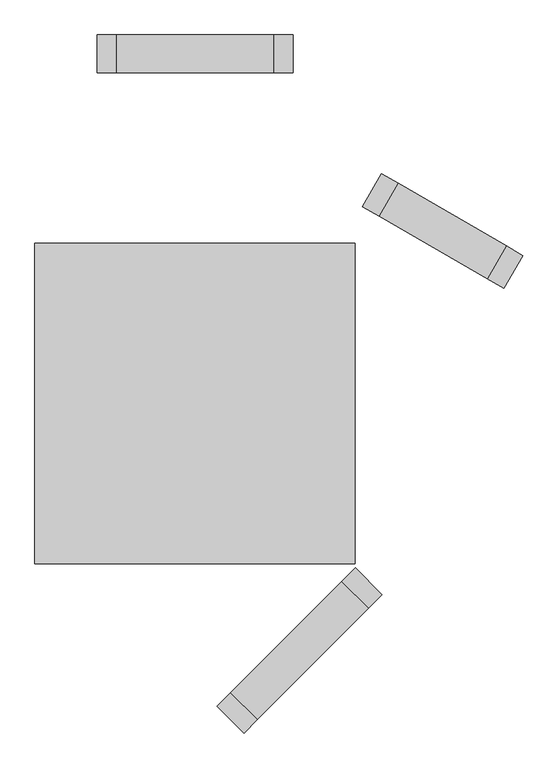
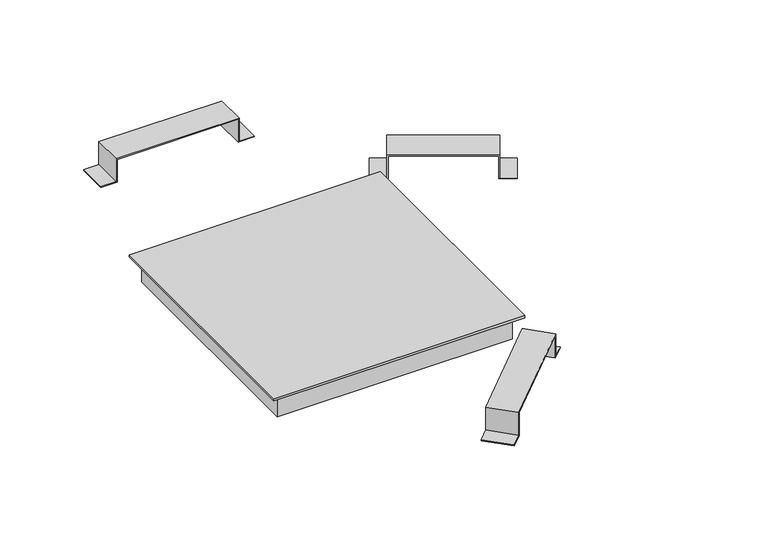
"""IFC4 building model written with IfcOpenShell, lengths in millimetres: cable carrier fitting geometry, Electrical-Installations_Hager_Universal-Junction-Box-With-Retaining-Tabs-Size-3-Angled : Universal junction box with retaining tabs size 3."""

import ifcopenshell
import ifcopenshell.guid

model = None  # the IFC model being written
_history = None  # IfcOwnerHistory: only IFC2X3 demands one
_inside = {}  # id of a spatial element -> (the spatial element, [elements in it])
_under = {}  # id of a project, library or spatial element -> (it, [spatial elements below it])
_declared = {}  # id of a project -> (the project, [libraries it declares])
_typed = {}  # id of a type object -> (the type object, [elements of that type])
_made_of = {}  # id of a material, layer set ... -> (it, [elements and type objects made of it])


def new_model(schema):
    """Start an empty IFC model of exactly this schema.

    Asked for "IFC4X3", IfcOpenShell would pick the latest addendum, in which some entities
    have other attributes; the version numbers below select the first issue.
    IFC2X3 requires an IfcOwnerHistory on every rooted entity: one is made here for all.
    """
    global model, _history
    if schema == "IFC4X3":
        model = ifcopenshell.file(schema_version=(4, 3, 0, 0))
    else:
        model = ifcopenshell.file(schema=schema)
    _inside.clear()
    _under.clear()
    _declared.clear()
    _typed.clear()
    _made_of.clear()
    _history = None
    if model.schema == "IFC2X3":
        org = make("IfcOrganization", Name="unknown")
        user = make(
            "IfcPersonAndOrganization",
            ThePerson=make("IfcPerson", FamilyName="unknown"),
            TheOrganization=org,
        )
        app = make(
            "IfcApplication",
            ApplicationDeveloper=org,
            Version="unknown",
            ApplicationFullName="unknown",
            ApplicationIdentifier="unknown",
        )
        _history = make(
            "IfcOwnerHistory",
            OwningUser=user,
            OwningApplication=app,
            ChangeAction="ADDED",
            CreationDate=0,
        )
    return model


def make(cls, **values):
    """One entity of the class cls with the attributes given. An attribute that is None is left unset."""
    return model.create_entity(
        cls, **{name: value for name, value in values.items() if value is not None}
    )


def rooted(cls, **values):
    """An entity with a GlobalId (a new one), such as an element, a storey or a relation."""
    return make(cls, GlobalId=ifcopenshell.guid.new(), OwnerHistory=_history, **values)


def si_unit(unit_type, name, prefix=None):
    """IfcSIUnit, for example si_unit("LENGTHUNIT", "METRE", prefix="MILLI")."""
    return make("IfcSIUnit", UnitType=unit_type, Prefix=prefix, Name=name)


def assignment(units):
    """IfcUnitAssignment: the units of a project."""
    return None if units is None else make("IfcUnitAssignment", Units=units)


def point(xyz):
    """IfcCartesianPoint."""
    return None if xyz is None else make("IfcCartesianPoint", Coordinates=xyz)


def direction(xyz):
    """IfcDirection."""
    return None if xyz is None else make("IfcDirection", DirectionRatios=xyz)


def frame(location, z_axis=None, x_axis=None):
    """IfcAxis2Placement3D, a coordinate frame: its origin and axes. An axis left out is left unset."""
    return make(
        "IfcAxis2Placement3D",
        Location=point(location),
        Axis=direction(z_axis),
        RefDirection=direction(x_axis),
    )


def origin():
    """The frame at (0, 0, 0) with its axes left unset."""
    return frame((0.0, 0.0, 0.0))


def place(relative_to, where):
    """IfcLocalPlacement: puts the frame where relative to a parent placement (None: the world)."""
    return make(
        "IfcLocalPlacement", PlacementRelTo=relative_to, RelativePlacement=where
    )


def context(
    kind, dimensions, precision=None, world=None, true_north=None, identifier=None
):
    """IfcGeometricRepresentationContext, for example the 3D "Model" context."""
    return make(
        "IfcGeometricRepresentationContext",
        ContextIdentifier=identifier,
        ContextType=kind,
        CoordinateSpaceDimension=dimensions,
        Precision=precision,
        WorldCoordinateSystem=world,
        TrueNorth=true_north,
    )


def project(units=None, contexts=None):
    """IfcProject with its units and contexts."""
    return rooted(
        "IfcProject",
        Name="project",
        RepresentationContexts=contexts,
        UnitsInContext=assignment(units),
    )


def spatial(cls, under=None, at=None, **own):
    """A site, building, storey or space (cls), placed at a placement, below another one or the project."""
    s = rooted(cls, ObjectPlacement=at, **own)
    if under is not None:
        _under.setdefault(under.id(), (under, []))[1].append(s)
    return s


def polyline(points):
    """IfcPolyline through the points."""
    return make("IfcPolyline", Points=[point(p) for p in points])


def outline(outer, holes=None, kind="AREA"):
    """IfcArbitraryClosedProfileDef: a profile drawn as a closed curve; with holes, ...WithVoids."""
    if holes is None:
        return make("IfcArbitraryClosedProfileDef", ProfileType=kind, OuterCurve=outer)
    return make(
        "IfcArbitraryProfileDefWithVoids",
        ProfileType=kind,
        OuterCurve=outer,
        InnerCurves=holes,
    )


def extrude(swept, where, along, depth):
    """IfcExtrudedAreaSolid: the profile swept, set in the frame where, extruded along a direction by depth."""
    return make(
        "IfcExtrudedAreaSolid",
        SweptArea=swept,
        Position=where,
        ExtrudedDirection=direction(along),
        Depth=depth,
    )


def faces_of(points, faces, orient=None, outer=None):
    """IfcFace entities. A face is a list of loops; a loop is a list of indices into points, from 0.

    orient and outer hold one flag for each loop. By default every Orientation is true, the
    first loop of a face is its IfcFaceOuterBound and the others are IfcFaceBound.
    """
    made = []
    for i, loops in enumerate(faces):
        bounds = []
        for j, loop in enumerate(loops):
            is_outer = j == 0 if outer is None else outer[i][j]
            bounds.append(
                make(
                    "IfcFaceOuterBound" if is_outer else "IfcFaceBound",
                    Bound=make("IfcPolyLoop", Polygon=[points[k] for k in loop]),
                    Orientation=True if orient is None else orient[i][j],
                )
            )
        made.append(make("IfcFace", Bounds=bounds))
    return made


def faceted_brep(points, faces, orient=None, outer=None, voids=None):
    """IfcFacetedBrep: a solid bounded by flat faces; with voids (closed shells), ...WithVoids."""
    shared = [point(p) for p in points]
    hull = make("IfcClosedShell", CfsFaces=faces_of(shared, faces, orient, outer))
    if voids is None:
        return make("IfcFacetedBrep", Outer=hull)
    return make(
        "IfcFacetedBrepWithVoids",
        Outer=hull,
        Voids=[
            make(cls, CfsFaces=faces_of(shared, fs, o, b)) for cls, fs, o, b in voids
        ],
    )


def shape(context_of_items, identifier, shape_type, items):
    """IfcShapeRepresentation: the items that make up one representation, for example the "Body"."""
    return make(
        "IfcShapeRepresentation",
        ContextOfItems=context_of_items,
        RepresentationIdentifier=identifier,
        RepresentationType=shape_type,
        Items=items,
    )


def source(mapping_origin, context_of_items, identifier, shape_type, items):
    """IfcRepresentationMap: a shape defined once, which mapped items show again and again."""
    return make(
        "IfcRepresentationMap",
        MappingOrigin=mapping_origin,
        MappedRepresentation=shape(context_of_items, identifier, shape_type, items),
    )


def transform(
    local_origin,
    x_axis=None,
    y_axis=None,
    z_axis=None,
    scale=None,
    scale2=None,
    scale3=None,
    uniform=True,
):
    """IfcCartesianTransformationOperator3D, or its non-uniform kind. x_axis, y_axis, z_axis: its Axis1, 2, 3."""
    if uniform:
        return make(
            "IfcCartesianTransformationOperator3D",
            Axis1=direction(x_axis),
            Axis2=direction(y_axis),
            LocalOrigin=point(local_origin),
            Scale=scale,
            Axis3=direction(z_axis),
        )
    return make(
        "IfcCartesianTransformationOperator3DnonUniform",
        Axis1=direction(x_axis),
        Axis2=direction(y_axis),
        LocalOrigin=point(local_origin),
        Scale=scale,
        Axis3=direction(z_axis),
        Scale2=scale2,
        Scale3=scale3,
    )


def mapped(mapping_source, mapping_target):
    """IfcMappedItem: shows the shape of a source again, moved by a transform."""
    return make(
        "IfcMappedItem", MappingSource=mapping_source, MappingTarget=mapping_target
    )


def made_of(thing, what):
    """Note that an element or type object is made of a material, layer set ...; save() writes the relation."""
    if what is not None:
        _made_of.setdefault(what.id(), (what, []))[1].append(thing)
    return thing


def element(
    cls,
    number,
    at=None,
    inside=None,
    cuts=None,
    type_object=None,
    material=None,
    context=None,
    identifier="Body",
    shape_type=None,
    held_by="IfcProductDefinitionShape",
    body=None,
    shapes=None,
    **own,
):
    """One element of the class cls, such as IfcWall. Its Tag is "e" and its number.

    at: its placement. inside: the storey or other place that contains it. cuts: it is an
    opening in that element (IfcRelVoidsElement). A single representation is given by context,
    identifier, shape_type and body (its items); several are given by shapes. held_by: the class
    of the entity that holds the representations. save() writes the other relations.
    """
    e = rooted(cls, Tag="e%d" % number, ObjectPlacement=at, **own)
    if body is not None:
        shapes = [shape(context, identifier, shape_type, body)]
    if shapes is not None:
        e.Representation = make(held_by, Representations=shapes)
    if inside is not None:
        _inside.setdefault(inside.id(), (inside, []))[1].append(e)
    if cuts is not None:
        rooted(
            "IfcRelVoidsElement", RelatingBuildingElement=cuts, RelatedOpeningElement=e
        )
    if type_object is not None:
        _typed.setdefault(type_object.id(), (type_object, []))[1].append(e)
    return made_of(e, material)


def aggregate(whole, parts):
    """IfcRelAggregates: a whole, such as a stair, and the parts it consists of."""
    return rooted("IfcRelAggregates", RelatingObject=whole, RelatedObjects=parts)


def save(model, path):
    """Write the relations noted so far, then the file.

    IfcRelAggregates (storeys below a building ...), IfcRelContainedInSpatialStructure (elements
    in a storey), IfcRelDefinesByType, IfcRelAssociatesMaterial and IfcRelDeclares: one each for
    every whole, place, type object, material and project.
    """
    for whole, parts in _under.values():
        aggregate(whole, parts)
    for where, things in _inside.values():
        rooted(
            "IfcRelContainedInSpatialStructure",
            RelatedElements=things,
            RelatingStructure=where,
        )
    for kind, things in _typed.values():
        rooted("IfcRelDefinesByType", RelatedObjects=things, RelatingType=kind)
    for what, things in _made_of.values():
        rooted("IfcRelAssociatesMaterial", RelatedObjects=things, RelatingMaterial=what)
    for by, libraries in _declared.values():
        rooted("IfcRelDeclares", RelatingContext=by, RelatedDefinitions=libraries)
    model.write(path)


def cable_carrier_fitting_c73509c4(model_context):
    return source(origin(), model_context, "Body", "SolidModel", [
        extrude(outline(polyline([(-24.0, -152.0), (-24.0, -120.0), (24.0, -120.0), (24.0, 120.0), (-24.0, 120.0), (-24.0, 152.0), (-22.0, 152.0), (-22.0, 122.0), (26.0, 122.0), (26.0, -122.0), (-22.0, -122.0), (-22.0, -152.0), (-24.0, -152.0)])), frame((0.0, 513.5, 0.0), z_axis=(0.0, 1.0, 0.0), x_axis=(0.0, 0.0, 1.0)), (0.0, 0.0, 1.0), 59.0),
        extrude(outline(polyline([(0.0, 0.0), (32.0, 0.0), (32.0, -48.0), (272.0, -48.0), (272.0, 0.0), (304.0, 0.0), (304.0, -2.0), (273.9999999, -2.0), (273.9999999, -50.0), (29.9999999, -50.0), (29.9999999, -2.0), (0.0, -2.0), (0.0, 0.0)])), frame((76.013979, -512.2587117, -24.0), z_axis=(-0.7071067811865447, 0.7071067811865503, 0.0), x_axis=(0.7071067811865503, 0.7071067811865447, 0.0)), (0.0, 0.0, 1.0), 59.0),
        extrude(outline(polyline([(0.0, 0.0), (0.0, -2.0), (-30.0, -2.0), (-30.0, -50.0), (-224.0, -50.0), (-224.0, -2.0), (-254.0, -2.0), (-254.0, 0.0), (-222.0000001, 0.0), (-222.0000001, -48.0), (-32.0, -48.0), (-32.0, 0.0), (0.0, 0.0)])), frame((480.6038291, 178.5541004, -24.0), z_axis=(0.5000000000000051, 0.8660254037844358, 0.0), x_axis=(0.8660254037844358, -0.5000000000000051, 0.0)), (0.0, 0.0, 1.0), 59.0),
        faceted_brep([(-249.0, -249.0, 29.0), (249.0, -249.0, 29.0), (249.0, 249.0, 29.0), (-249.0, 249.0, 29.0), (-249.0, -249.0, 24.0), (-249.0, 249.0, 24.0), (249.0, 249.0, 24.0), (249.0, -249.0, 24.0), (227.0, 227.0, 24.0), (-227.0, 227.0, 24.0), (-227.0, -227.0, 24.0), (227.0, -227.0, 24.0), (227.0, 227.0, 24.7820613), (227.0, -227.0, 24.7820613), (-227.0, -227.0, 24.7820613), (-227.0, 227.0, 24.7820613)], [[[0, 1, 2, 3]], [[4, 5, 6, 7], [8, 9, 10, 11]], [[1, 0, 4, 7]], [[2, 1, 7, 6]], [[3, 2, 6, 5]], [[0, 3, 5, 4]], [[12, 13, 14, 15]], [[12, 15, 9, 8]], [[15, 14, 10, 9]], [[14, 13, 11, 10]], [[13, 12, 8, 11]]]),
        faceted_brep([(-233.0, 233.0, 24.0), (-233.0, -233.0, 24.0), (233.0, -233.0, 24.0), (233.0, 233.0, 24.0), (-227.0, 227.0, 24.0), (227.0, 227.0, 24.0), (227.0, -227.0, 24.0), (-227.0, -227.0, 24.0), (-233.0, 233.0, -24.0), (233.0, 233.0, -24.0), (233.0, -233.0, -24.0), (-233.0, -233.0, -24.0), (227.0, 227.0, -16.1362798), (-227.0, 227.0, -16.1362798), (-227.0, -227.0, -16.1362798), (227.0, -227.0, -16.1362798)], [[[0, 1, 2, 3], [4, 5, 6, 7]], [[8, 9, 10, 11]], [[1, 0, 8, 11]], [[2, 1, 11, 10]], [[3, 2, 10, 9]], [[0, 3, 9, 8]], [[12, 13, 14, 15]], [[13, 12, 5, 4]], [[14, 13, 4, 7]], [[15, 14, 7, 6]], [[12, 15, 6, 5]]]),
    ])


if __name__ == "__main__":
    model = new_model("IFC4")
    model_context = context("Model", 3, world=origin())
    ifc_project = project(units=[si_unit("LENGTHUNIT", "METRE", prefix="MILLI")], contexts=[model_context])
    site = spatial("IfcSite", under=ifc_project)
    building = spatial("IfcBuilding", under=site)
    placement = place(None, origin())
    cable_carrier_fitting_shape = cable_carrier_fitting_c73509c4(model_context)
    element("IfcCableCarrierFitting", 1, ObjectType="Electrical-Installations_Hager_Universal-Junction-Box-With-Retaining-Tabs-Size-3-Angled : Universal junction box with retaining tabs size 3", at=placement, inside=building, context=model_context, shape_type="MappedRepresentation", body=[
        mapped(cable_carrier_fitting_shape, transform((0.0, 0.0, 0.0), x_axis=(1.0, 0.0, 0.0), y_axis=(0.0, 1.0, 0.0), z_axis=(0.0, 0.0, 1.0))),
    ])
    save(model, "model.ifc")
